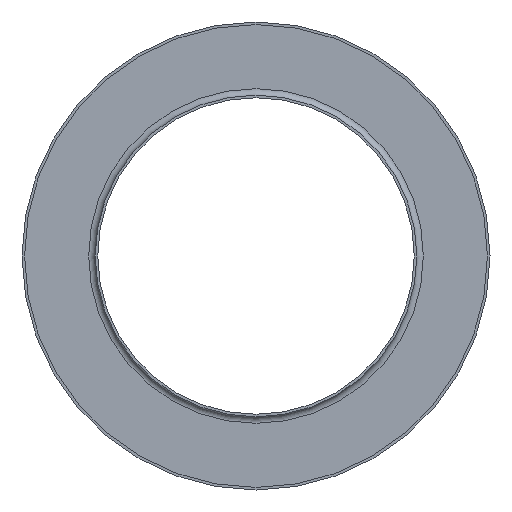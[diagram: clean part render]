
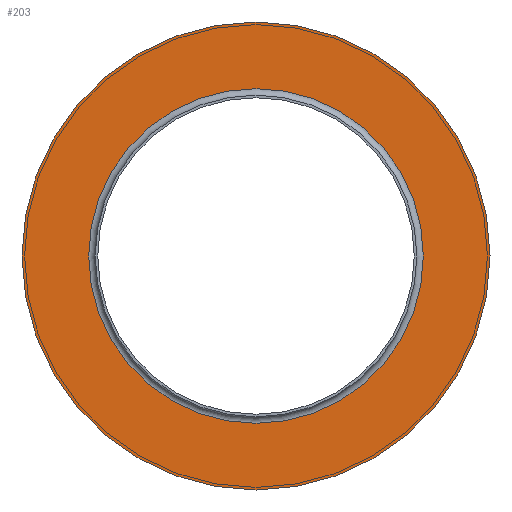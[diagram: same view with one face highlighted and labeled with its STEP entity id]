
A CAD part, front view. The second image highlights one B-rep face of the part: STEP entity #203.
In plain terms, the highlighted planar face has unit normal (0, -1, 0).
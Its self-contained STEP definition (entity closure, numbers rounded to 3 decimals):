
#23=PLANE('',#242);
#38=FACE_BOUND('',#83,.T.);
#54=FACE_OUTER_BOUND('',#82,.T.);
#82=EDGE_LOOP('',(#162));
#83=EDGE_LOOP('',(#163));
#103=CIRCLE('',#239,129.75);
#105=CIRCLE('',#243,181.5);
#119=VERTEX_POINT('',#351);
#121=VERTEX_POINT('',#357);
#135=EDGE_CURVE('',#119,#119,#103,.T.);
#137=EDGE_CURVE('',#121,#121,#105,.T.);
#162=ORIENTED_EDGE('',*,*,#137,.F.);
#163=ORIENTED_EDGE('',*,*,#135,.F.);
#203=ADVANCED_FACE('',(#54,#38),#23,.T.);
#239=AXIS2_PLACEMENT_3D('',#352,#297,#298);
#242=AXIS2_PLACEMENT_3D('',#356,#303,#304);
#243=AXIS2_PLACEMENT_3D('',#358,#305,#306);
#297=DIRECTION('center_axis',(0.,-1.,0.));
#298=DIRECTION('ref_axis',(0.,0.,-1.));
#303=DIRECTION('center_axis',(0.,-1.,0.));
#304=DIRECTION('ref_axis',(0.,0.,-1.));
#305=DIRECTION('center_axis',(0.,1.,0.));
#306=DIRECTION('ref_axis',(1.,0.,0.));
#351=CARTESIAN_POINT('',(0.,85.,129.75));
#352=CARTESIAN_POINT('Origin',(0.,85.,0.));
#356=CARTESIAN_POINT('Origin',(0.,85.,181.5));
#357=CARTESIAN_POINT('',(0.,85.,181.5));
#358=CARTESIAN_POINT('Origin',(0.,85.,0.));
